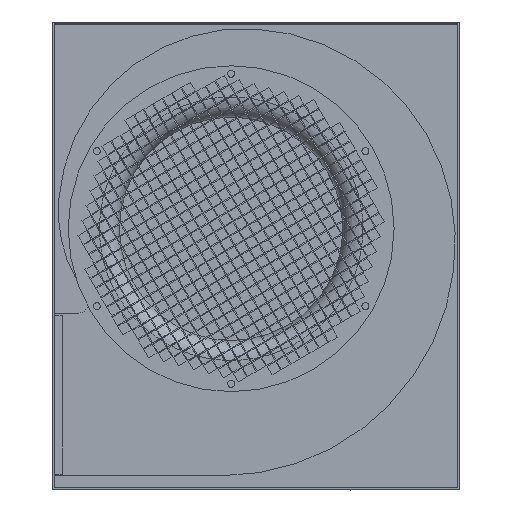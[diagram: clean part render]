
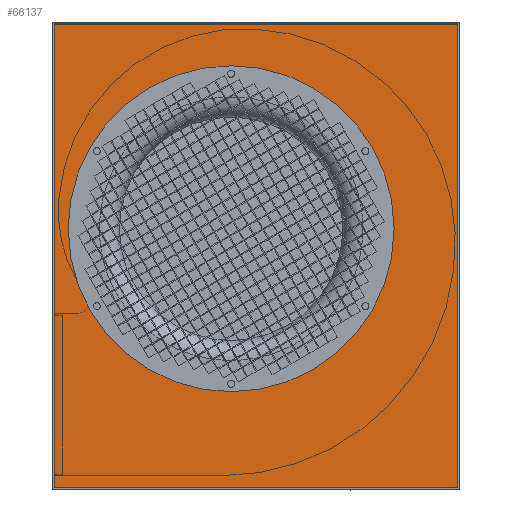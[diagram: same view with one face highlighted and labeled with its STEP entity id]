
A CAD part, top view. The second image highlights one B-rep face of the part: STEP entity #66137.
In plain terms, the highlighted planar face has unit normal (0, 0, 1).
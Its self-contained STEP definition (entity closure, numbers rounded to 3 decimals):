
#2259=FACE_BOUND('',#9296,.T.);
#2649=CIRCLE('',#69589,164.);
#5261=FACE_OUTER_BOUND('',#9295,.T.);
#9295=EDGE_LOOP('',(#55126,#55127,#55128,#55129));
#9296=EDGE_LOOP('',(#55130));
#16841=LINE('',#99038,#24575);
#16842=LINE('',#99040,#24576);
#16843=LINE('',#99042,#24577);
#16844=LINE('',#99043,#24578);
#24575=VECTOR('',#82529,10.);
#24576=VECTOR('',#82530,10.);
#24577=VECTOR('',#82531,10.);
#24578=VECTOR('',#82532,10.);
#30320=VERTEX_POINT('',#99033);
#30321=VERTEX_POINT('',#99036);
#30322=VERTEX_POINT('',#99037);
#30323=VERTEX_POINT('',#99039);
#30324=VERTEX_POINT('',#99041);
#38776=EDGE_CURVE('',#30320,#30320,#2649,.T.);
#38777=EDGE_CURVE('',#30321,#30322,#16841,.T.);
#38778=EDGE_CURVE('',#30322,#30323,#16842,.T.);
#38779=EDGE_CURVE('',#30323,#30324,#16843,.T.);
#38780=EDGE_CURVE('',#30324,#30321,#16844,.T.);
#55126=ORIENTED_EDGE('',*,*,#38777,.T.);
#55127=ORIENTED_EDGE('',*,*,#38778,.T.);
#55128=ORIENTED_EDGE('',*,*,#38779,.T.);
#55129=ORIENTED_EDGE('',*,*,#38780,.T.);
#55130=ORIENTED_EDGE('',*,*,#38776,.T.);
#60913=PLANE('',#69590);
#66137=ADVANCED_FACE('',(#5261,#2259),#60913,.T.);
#69589=AXIS2_PLACEMENT_3D('',#99034,#82525,#82526);
#69590=AXIS2_PLACEMENT_3D('',#99035,#82527,#82528);
#82525=DIRECTION('center_axis',(0.,0.,
-1.));
#82526=DIRECTION('ref_axis',(-1.,0.,0.));
#82527=DIRECTION('center_axis',(0.,0.,
1.));
#82528=DIRECTION('ref_axis',(1.,0.,0.));
#82529=DIRECTION('',(1.,0.,0.));
#82530=DIRECTION('',(0.,1.,0.));
#82531=DIRECTION('',(-1.,0.,0.));
#82532=DIRECTION('',(0.,-1.,0.));
#99033=CARTESIAN_POINT('',(-164.,0.,186.));
#99034=CARTESIAN_POINT('Origin',(0.,0.,
186.));
#99035=CARTESIAN_POINT('Origin',(228.266,-4.,186.));
#99036=CARTESIAN_POINT('',(-178.,-260.,186.));
#99037=CARTESIAN_POINT('',(228.,-260.,186.));
#99038=CARTESIAN_POINT('',(126.633,-260.,186.));
#99039=CARTESIAN_POINT('',(228.,206.,186.));
#99040=CARTESIAN_POINT('',(228.,-15.5,186.));
#99041=CARTESIAN_POINT('',(-178.,206.,186.));
#99042=CARTESIAN_POINT('',(126.633,206.,186.));
#99043=CARTESIAN_POINT('',(-178.,-15.5,186.));
